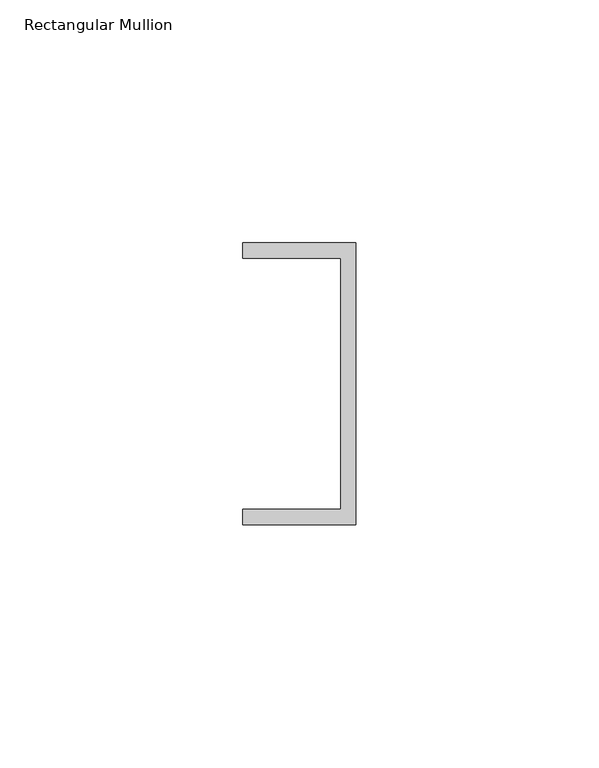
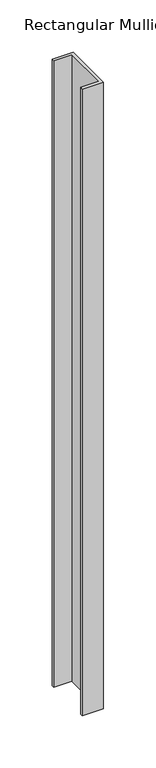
"""IFC4 building model written with IfcOpenShell, lengths in millimetres: member geometry, Rectangular Mullion : Frame-Teknion-Altos-Base_Channel."""

from ifc_helpers import new_model, si_unit, frame, origin, place, context, project, spatial, polyline, outline, extrude, source, transform, mapped, element, save


def rectangular_mullion_204a040b(model_context):
    return source(origin(), model_context, "Body", "SweptSolid", [
        extrude(outline(polyline([(0.0, 29.0214844), (0.0, -29.0214844), (-23.3164063, -29.0214844), (-23.3164063, -25.8464844), (-3.175, -25.8464844), (-3.175, 25.8464844), (-23.3164063, 25.8464844), (-23.3164063, 29.0214844), (0.0, 29.0214844)])), frame((0.0, 0.0, -734.0203125), z_axis=(0.0, 0.0, 1.0), x_axis=(1.0, 0.0, 0.0)), (0.0, 0.0, 1.0), 734.0203125),
    ])


if __name__ == "__main__":
    model = new_model("IFC4")
    model_context = context("Model", 3, world=origin())
    ifc_project = project(units=[si_unit("LENGTHUNIT", "METRE", prefix="MILLI")], contexts=[model_context])
    site = spatial("IfcSite", under=ifc_project)
    building = spatial("IfcBuilding", under=site)
    placement = place(None, origin())
    rectangular_mullion_shape = rectangular_mullion_204a040b(model_context)
    element("IfcMember", 1, ObjectType="Rectangular Mullion : Frame-Teknion-Altos-Base_Channel", at=placement, inside=building, context=model_context, shape_type="MappedRepresentation", body=[
        mapped(rectangular_mullion_shape, transform((0.0, 0.0, 0.0), x_axis=(1.0, 0.0, 0.0), y_axis=(0.0, 1.0, 0.0), z_axis=(0.0, 0.0, 1.0))),
    ])
    save(model, "model.ifc")
